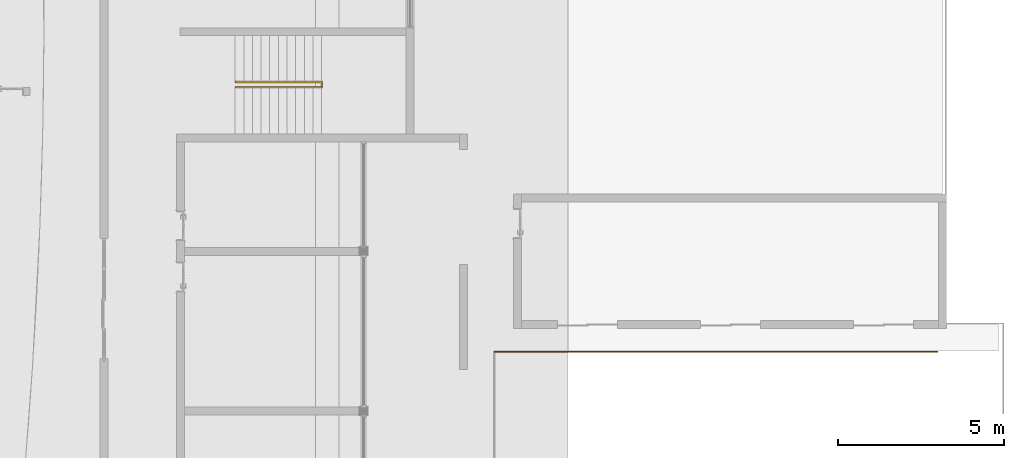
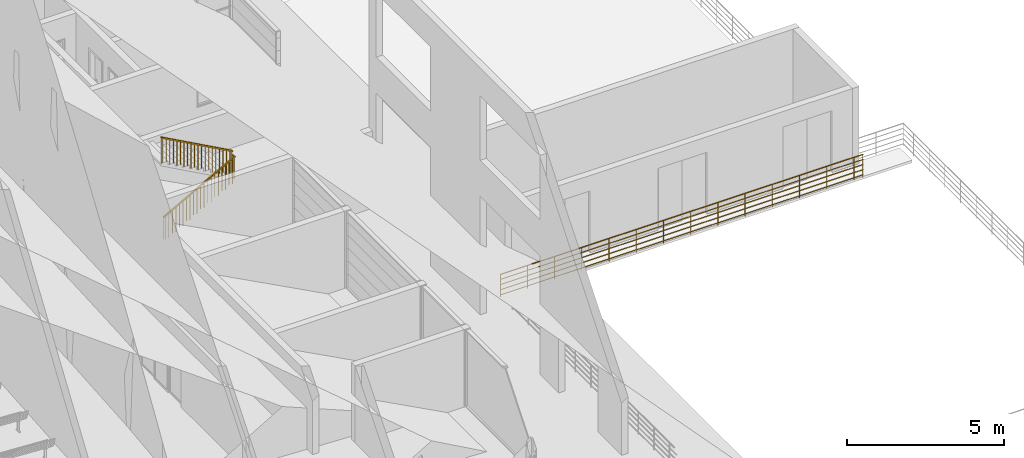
# One storey, part 73 of 82: 2 railings, 1 element without a shape of its own.
"""IFC2X3 building model written with IfcOpenShell, lengths in millimetres."""

from ifc_helpers import new_model, entity, si_unit, converted_unit, derived_unit, direction, frame, frame_2d, origin, origin_2d_with_axis, place, context, subcontext, project, spatial, polyline, rectangle, circle, outline, extrude, material, element, aggregate, save


model = new_model("IFC2X3")

# Units and contexts
model_context = context("Model", 3, precision=0.01, world=origin(), true_north=direction((6.12303176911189e-17, 1.0)))
body_context = subcontext(model_context, "Body", "Model", "MODEL_VIEW")
ifc_project = project(units=[si_unit("LENGTHUNIT", "METRE", prefix="MILLI"), si_unit("AREAUNIT", "SQUARE_METRE"), si_unit("VOLUMEUNIT", "CUBIC_METRE"), converted_unit("PLANEANGLEUNIT", "DEGREE", entity("IfcRatioMeasure", 0.0174532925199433), si_unit("PLANEANGLEUNIT", "RADIAN"), dimensions=[0, 0, 0, 0, 0, 0, 0]), si_unit("MASSUNIT", "GRAM", prefix="KILO"), derived_unit("MASSDENSITYUNIT", [(si_unit("MASSUNIT", "GRAM", prefix="KILO"), 1), (si_unit("LENGTHUNIT", "METRE"), -3)]), si_unit("TIMEUNIT", "SECOND"), si_unit("FREQUENCYUNIT", "HERTZ"), si_unit("THERMODYNAMICTEMPERATUREUNIT", "DEGREE_CELSIUS"), derived_unit("THERMALTRANSMITTANCEUNIT", [(si_unit("MASSUNIT", "GRAM", prefix="KILO"), 1), (si_unit("THERMODYNAMICTEMPERATUREUNIT", "KELVIN"), -1), (si_unit("TIMEUNIT", "SECOND"), -3)]), derived_unit("VOLUMETRICFLOWRATEUNIT", [(si_unit("LENGTHUNIT", "METRE"), 3), (si_unit("TIMEUNIT", "SECOND"), -1)]), si_unit("ELECTRICCURRENTUNIT", "AMPERE"), si_unit("ELECTRICVOLTAGEUNIT", "VOLT"), si_unit("POWERUNIT", "WATT"), si_unit("FORCEUNIT", "NEWTON", prefix="KILO"), si_unit("ILLUMINANCEUNIT", "LUX"), si_unit("LUMINOUSFLUXUNIT", "LUMEN"), si_unit("LUMINOUSINTENSITYUNIT", "CANDELA"), derived_unit("USERDEFINED", [(si_unit("MASSUNIT", "GRAM", prefix="KILO"), -1), (si_unit("LENGTHUNIT", "METRE"), -2), (si_unit("TIMEUNIT", "SECOND"), 3), (si_unit("LUMINOUSFLUXUNIT", "LUMEN"), 1)]), derived_unit("LINEARVELOCITYUNIT", [(si_unit("LENGTHUNIT", "METRE"), 1), (si_unit("TIMEUNIT", "SECOND"), -1)]), si_unit("PRESSUREUNIT", "PASCAL"), derived_unit("USERDEFINED", [(si_unit("LENGTHUNIT", "METRE"), -2), (si_unit("MASSUNIT", "GRAM", prefix="KILO"), 1), (si_unit("TIMEUNIT", "SECOND"), -2)])], contexts=[model_context])

# Site, building, storey
site_placement = place(None, origin())
site = spatial("IfcSite", under=ifc_project, at=site_placement, Name="表面", CompositionType="ELEMENT")
building_placement = place(site_placement, origin())
building = spatial("IfcBuilding", under=site, at=building_placement, CompositionType="ELEMENT")
storey_placement = place(building_placement, origin())
storey = spatial("IfcBuildingStorey", under=building, at=storey_placement, Name="1F", CompositionType="ELEMENT", Elevation=0.0)

# Stair, railing
stair_placement = place(storey_placement, origin())
stair = element("IfcStair", 1, at=stair_placement, inside=storey, ShapeType="NOTDEFINED")
ifc_material = material(Name="不锈钢")
railing_1_placement = place(stair_placement, origin())
railing_1 = element("IfcRailing", 2, at=railing_1_placement, material=ifc_material, Name="栏杆扶手:900mm", ObjectType="栏杆扶手:900mm", PredefinedType="NOTDEFINED", context=body_context, shape_type="SweptSolid", body=[
    extrude(outline(polyline([(-469.441869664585, -10.0), (474.936375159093, -10.0), (474.936375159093, 10.0), (-480.430880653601, 10.0), (-469.441869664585, -10.0)])), frame((-10424.8499126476, -7037.44591297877, 3474.93637516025), z_axis=(0.0, 1.0, 0.0), x_axis=(0.0, 0.0, -1.0)), (0.0, 0.0, 1.0), 19.9999999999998),
    extrude(outline(polyline([(-433.727583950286, -10.0), (439.222089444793, -10.0), (439.222089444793, 10.0), (-444.716594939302, 10.0), (-433.727583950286, -10.0)])), frame((-10294.8499126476, -7037.44591297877, 3439.22208944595), z_axis=(0.0, 1.0, 0.0), x_axis=(0.0, 0.0, -1.0)), (0.0, 0.0, 1.0), 19.9999999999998),
    extrude(outline(polyline([(-469.441869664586, -10.0), (474.936375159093, -10.0), (474.936375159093, 10.0), (-480.430880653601, 10.0), (-469.441869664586, -10.0)])), frame((-10164.8499126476, -7037.44591297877, 3332.07923230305), z_axis=(0.0, 1.0, 0.0), x_axis=(0.0, 0.0, -1.0)), (0.0, 0.0, 1.0), 19.9999999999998),
    extrude(outline(polyline([(-433.727583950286, -10.0), (439.222089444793, -10.0), (439.222089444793, 10.0), (-444.716594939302, 10.0), (-433.727583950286, -10.0)])), frame((-10034.8499126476, -7037.44591297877, 3296.36494658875), z_axis=(0.0, 1.0, 0.0), x_axis=(0.0, 0.0, -1.0)), (0.0, 0.0, 1.0), 19.9999999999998),
    extrude(outline(polyline([(-469.441869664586, -10.0), (474.936375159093, -10.0), (474.936375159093, 10.0), (-480.430880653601, 10.0), (-469.441869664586, -10.0)])), frame((-9904.84991264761, -7037.44591297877, 3189.22208944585), z_axis=(0.0, 1.0, 0.0), x_axis=(0.0, 0.0, -1.0)), (0.0, 0.0, 1.0), 19.9999999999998),
    extrude(outline(polyline([(-433.727583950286, -10.0), (439.222089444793, -10.0), (439.222089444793, 10.0), (-444.716594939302, 10.0), (-433.727583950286, -10.0)])), frame((-9774.84991264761, -7037.44591297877, 3153.50780373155), z_axis=(0.0, 1.0, 0.0), x_axis=(0.0, 0.0, -1.0)), (0.0, 0.0, 1.0), 19.9999999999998),
    extrude(outline(polyline([(-469.441869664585, -10.0), (474.936375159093, -10.0), (474.936375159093, 10.0), (-480.430880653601, 10.0), (-469.441869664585, -10.0)])), frame((-9644.84991264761, -7037.44591297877, 3046.36494658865), z_axis=(0.0, 1.0, 0.0), x_axis=(0.0, 0.0, -1.0)), (0.0, 0.0, 1.0), 19.9999999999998),
    extrude(outline(polyline([(-433.727583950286, -10.0), (439.222089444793, -10.0), (439.222089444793, 10.0), (-444.716594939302, 10.0), (-433.727583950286, -10.0)])), frame((-9514.84991264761, -7037.44591297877, 3010.65066087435), z_axis=(0.0, 1.0, 0.0), x_axis=(0.0, 0.0, -1.0)), (0.0, 0.0, 1.0), 19.9999999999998),
    extrude(outline(polyline([(-469.441869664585, -10.0), (474.936375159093, -10.0), (474.936375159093, 10.0), (-480.430880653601, 10.0), (-469.441869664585, -10.0)])), frame((-9384.84991264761, -7037.44591297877, 2903.50780373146), z_axis=(0.0, 1.0, 0.0), x_axis=(0.0, 0.0, -1.0)), (0.0, 0.0, 1.0), 19.9999999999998),
    extrude(outline(polyline([(-433.727583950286, -10.0), (439.222089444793, -10.0), (439.222089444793, 10.0), (-444.716594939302, 10.0), (-433.727583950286, -10.0)])), frame((-9254.84991264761, -7037.44591297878, 2867.79351801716), z_axis=(0.0, 1.0, 0.0), x_axis=(0.0, 0.0, -1.0)), (0.0, 0.0, 1.0), 19.9999999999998),
    extrude(outline(polyline([(-469.441869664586, -10.0), (474.936375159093, -10.0), (474.936375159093, 10.0), (-480.430880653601, 10.0), (-469.441869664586, -10.0)])), frame((-9124.84991264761, -7037.44591297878, 2760.65066087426), z_axis=(0.0, 1.0, 0.0), x_axis=(0.0, 0.0, -1.0)), (0.0, 0.0, 1.0), 19.9999999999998),
    extrude(outline(polyline([(-433.727583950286, -10.0), (439.222089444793, -10.0), (439.222089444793, 10.0), (-444.716594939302, 10.0), (-433.727583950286, -10.0)])), frame((-8994.84991264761, -7037.44591297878, 2724.93637515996), z_axis=(0.0, 1.0, 0.0), x_axis=(0.0, 0.0, -1.0)), (0.0, 0.0, 1.0), 19.9999999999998),
    extrude(outline(polyline([(-469.441869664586, -10.0), (474.936375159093, -10.0), (474.936375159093, 10.0), (-480.430880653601, 10.0), (-469.441869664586, -10.0)])), frame((-8864.84991264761, -7037.44591297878, 2617.79351801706), z_axis=(0.0, 1.0, 0.0), x_axis=(0.0, 0.0, -1.0)), (0.0, 0.0, 1.0), 19.9999999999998),
    extrude(outline(polyline([(-433.727583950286, -10.0), (439.222089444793, -10.0), (439.222089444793, 10.0), (-444.716594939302, 10.0), (-433.727583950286, -10.0)])), frame((-8734.84991264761, -7037.44591297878, 2582.07923230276), z_axis=(0.0, 1.0, 0.0), x_axis=(0.0, 0.0, -1.0)), (0.0, 0.0, 1.0), 19.9999999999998),
    extrude(outline(polyline([(-469.441869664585, -10.0), (474.936375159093, -10.0), (474.936375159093, 10.0), (-480.430880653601, 10.0), (-469.441869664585, -10.0)])), frame((-8604.84991264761, -7037.44591297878, 2474.93637515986), z_axis=(0.0, 1.0, 0.0), x_axis=(0.0, 0.0, -1.0)), (0.0, 0.0, 1.0), 19.9999999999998),
    extrude(outline(polyline([(-433.727583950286, -10.0), (439.222089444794, -10.0), (439.222089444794, 10.0), (-444.716594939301, 10.0), (-433.727583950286, -10.0)])), frame((-8474.84991264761, -7037.44591297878, 2439.22208944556), z_axis=(0.0, 1.0, 0.0), x_axis=(0.0, 0.0, -1.0)), (0.0, 0.0, 1.0), 19.9999999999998),
    extrude(outline(polyline([(-469.441869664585, -10.0), (474.936375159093, -10.0), (474.936375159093, 10.0), (-480.430880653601, 10.0), (-469.441869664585, -10.0)])), frame((-8344.84991264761, -7037.44591297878, 2332.07923230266), z_axis=(0.0, 1.0, 0.0), x_axis=(0.0, 0.0, -1.0)), (0.0, 0.0, 1.0), 19.9999999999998),
    extrude(outline(polyline([(-433.727583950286, -10.0), (439.222089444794, -10.0), (439.222089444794, 10.0), (-444.716594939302, 10.0), (-433.727583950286, -10.0)])), frame((-8214.84991264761, -7037.44591297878, 2296.36494658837), z_axis=(0.0, 1.0, 0.0), x_axis=(0.0, 0.0, -1.0)), (0.0, 0.0, 1.0), 19.9999999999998),
    extrude(outline(polyline([(-469.441869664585, -10.0), (474.936375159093, -10.0), (474.936375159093, 10.0), (-480.430880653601, 10.0), (-469.441869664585, -10.0)])), frame((-8084.84991264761, -7037.44591297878, 2189.22208944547), z_axis=(0.0, 1.0, 0.0), x_axis=(0.0, 0.0, -1.0)), (0.0, 0.0, 1.0), 19.9999999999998),
    extrude(outline(polyline([(-433.727583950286, -10.0), (439.222089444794, -10.0), (439.222089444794, 10.0), (-444.716594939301, 10.0), (-433.727583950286, -10.0)])), frame((-7954.84991264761, -7037.44591297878, 2153.50780373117), z_axis=(0.0, 1.0, 0.0), x_axis=(0.0, 0.0, -1.0)), (0.0, 0.0, 1.0), 19.9999999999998),
    extrude(rectangle(XDim=19.9999999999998, YDim=19.9999999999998, at=origin_2d_with_axis()), frame((-7889.84991264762, -7123.24591297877, 1571.42857142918)), (0.0, 0.0, 1.0), 850.0),
    extrude(outline(polyline([(-475.046265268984, -10.0), (469.551759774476, -10.0), (480.540770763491, 10.0), (-475.046265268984, 10.0), (-475.046265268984, -10.0)])), frame((-7955.24991264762, -7198.24591297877, 1903.61769384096), z_axis=(0.0, 1.0, 0.0), x_axis=(0.0, 0.0, 1.0)), (0.0, 0.0, 1.0), 19.9999999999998),
    extrude(outline(polyline([(-439.331979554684, -10.0), (433.837474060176, -10.0), (444.826485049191, 10.0), (-439.331979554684, 10.0), (-439.331979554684, -10.0)])), frame((-8085.24991264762, -7198.24591297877, 1867.90340812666), z_axis=(0.0, 1.0, 0.0), x_axis=(0.0, 0.0, 1.0)), (0.0, 0.0, 1.0), 19.9999999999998),
    extrude(outline(polyline([(-475.046265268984, -10.0), (469.551759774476, -10.0), (480.540770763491, 10.0), (-475.046265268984, 10.0), (-475.046265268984, -10.0)])), frame((-8215.24991264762, -7198.24591297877, 1760.76055098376), z_axis=(0.0, 1.0, 0.0), x_axis=(0.0, 0.0, 1.0)), (0.0, 0.0, 1.0), 19.9999999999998),
    extrude(outline(polyline([(-439.331979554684, -10.0), (433.837474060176, -10.0), (444.826485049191, 10.0), (-439.331979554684, 10.0), (-439.331979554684, -10.0)])), frame((-8345.24991264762, -7198.24591297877, 1725.04626526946), z_axis=(0.0, 1.0, 0.0), x_axis=(0.0, 0.0, 1.0)), (0.0, 0.0, 1.0), 19.9999999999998),
    extrude(outline(polyline([(-475.046265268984, -10.0), (469.551759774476, -10.0), (480.540770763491, 10.0), (-475.046265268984, 10.0), (-475.046265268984, -10.0)])), frame((-8475.24991264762, -7198.24591297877, 1617.90340812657), z_axis=(0.0, 1.0, 0.0), x_axis=(0.0, 0.0, 1.0)), (0.0, 0.0, 1.0), 19.9999999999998),
    extrude(outline(polyline([(-439.331979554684, -10.0), (433.837474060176, -10.0), (444.826485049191, 10.0), (-439.331979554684, 10.0), (-439.331979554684, -10.0)])), frame((-8605.24991264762, -7198.24591297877, 1582.18912241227), z_axis=(0.0, 1.0, 0.0), x_axis=(0.0, 0.0, 1.0)), (0.0, 0.0, 1.0), 19.9999999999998),
    extrude(outline(polyline([(-475.046265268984, -10.0), (469.551759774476, -10.0), (480.540770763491, 10.0), (-475.046265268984, 10.0), (-475.046265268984, -10.0)])), frame((-8735.24991264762, -7198.24591297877, 1475.04626526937), z_axis=(0.0, 1.0, 0.0), x_axis=(0.0, 0.0, 1.0)), (0.0, 0.0, 1.0), 19.9999999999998),
    extrude(outline(polyline([(-439.331979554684, -10.0), (433.837474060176, -10.0), (444.826485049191, 10.0), (-439.331979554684, 10.0), (-439.331979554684, -10.0)])), frame((-8865.24991264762, -7198.24591297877, 1439.33197955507), z_axis=(0.0, 1.0, 0.0), x_axis=(0.0, 0.0, 1.0)), (0.0, 0.0, 1.0), 19.9999999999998),
    extrude(outline(polyline([(-475.046265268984, -10.0), (469.551759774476, -10.0), (480.540770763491, 10.0), (-475.046265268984, 10.0), (-475.046265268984, -10.0)])), frame((-8995.24991264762, -7198.24591297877, 1332.18912241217), z_axis=(0.0, 1.0, 0.0), x_axis=(0.0, 0.0, 1.0)), (0.0, 0.0, 1.0), 19.9999999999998),
    extrude(outline(polyline([(-439.331979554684, -10.0), (433.837474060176, -10.0), (444.826485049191, 10.0), (-439.331979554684, 10.0), (-439.331979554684, -10.0)])), frame((-9125.24991264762, -7198.24591297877, 1296.47483669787), z_axis=(0.0, 1.0, 0.0), x_axis=(0.0, 0.0, 1.0)), (0.0, 0.0, 1.0), 19.9999999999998),
    extrude(outline(polyline([(-475.046265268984, -10.0), (469.551759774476, -10.0), (480.540770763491, 10.0), (-475.046265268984, 10.0), (-475.046265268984, -10.0)])), frame((-9255.24991264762, -7198.24591297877, 1189.33197955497), z_axis=(0.0, 1.0, 0.0), x_axis=(0.0, 0.0, 1.0)), (0.0, 0.0, 1.0), 19.9999999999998),
    extrude(outline(polyline([(-439.331979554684, -10.0), (433.837474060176, -10.0), (444.826485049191, 10.0), (-439.331979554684, 10.0), (-439.331979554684, -10.0)])), frame((-9385.24991264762, -7198.24591297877, 1153.61769384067), z_axis=(0.0, 1.0, 0.0), x_axis=(0.0, 0.0, 1.0)), (0.0, 0.0, 1.0), 19.9999999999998),
    extrude(outline(polyline([(-475.046265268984, -10.0), (469.551759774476, -10.0), (480.540770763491, 10.0), (-475.046265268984, 10.0), (-475.046265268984, -10.0)])), frame((-9515.24991264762, -7198.24591297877, 1046.47483669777), z_axis=(0.0, 1.0, 0.0), x_axis=(0.0, 0.0, 1.0)), (0.0, 0.0, 1.0), 19.9999999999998),
    extrude(outline(polyline([(-439.331979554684, -10.0), (433.837474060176, -10.0), (444.826485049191, 10.0), (-439.331979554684, 10.0), (-439.331979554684, -10.0)])), frame((-9645.24991264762, -7198.24591297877, 1010.76055098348), z_axis=(0.0, 1.0, 0.0), x_axis=(0.0, 0.0, 1.0)), (0.0, 0.0, 1.0), 19.9999999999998),
    extrude(outline(polyline([(-475.046265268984, -10.0), (469.551759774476, -10.0), (480.540770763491, 10.0), (-475.046265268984, 10.0), (-475.046265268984, -10.0)])), frame((-9775.24991264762, -7198.24591297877, 903.617693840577), z_axis=(0.0, 1.0, 0.0), x_axis=(0.0, 0.0, 1.0)), (0.0, 0.0, 1.0), 19.9999999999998),
    extrude(outline(polyline([(-439.331979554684, -10.0), (433.837474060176, -10.0), (444.826485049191, 10.0), (-439.331979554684, 10.0), (-439.331979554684, -10.0)])), frame((-9905.24991264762, -7198.24591297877, 867.903408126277), z_axis=(0.0, 1.0, 0.0), x_axis=(0.0, 0.0, 1.0)), (0.0, 0.0, 1.0), 19.9999999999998),
    extrude(outline(polyline([(-475.046265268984, -10.0), (469.551759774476, -10.0), (480.540770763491, 10.0), (-475.046265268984, 10.0), (-475.046265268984, -10.0)])), frame((-10035.2499126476, -7198.24591297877, 760.760550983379), z_axis=(0.0, 1.0, 0.0), x_axis=(0.0, 0.0, 1.0)), (0.0, 0.0, 1.0), 19.9999999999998),
    extrude(outline(polyline([(-439.331979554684, -10.0), (433.837474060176, -10.0), (444.826485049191, 10.0), (-439.331979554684, 10.0), (-439.331979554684, -10.0)])), frame((-10165.2499126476, -7198.24591297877, 725.046265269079), z_axis=(0.0, 1.0, 0.0), x_axis=(0.0, 0.0, 1.0)), (0.0, 0.0, 1.0), 19.9999999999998),
    extrude(outline(polyline([(-475.046265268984, -10.0), (469.551759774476, -10.0), (480.540770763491, 10.0), (-475.046265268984, 10.0), (-475.046265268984, -10.0)])), frame((-10295.2499126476, -7198.24591297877, 617.903408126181), z_axis=(0.0, 1.0, 0.0), x_axis=(0.0, 0.0, 1.0)), (0.0, 0.0, 1.0), 19.9999999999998),
    extrude(outline(polyline([(-439.331979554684, -10.0), (433.837474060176, -10.0), (444.826485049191, 10.0), (-439.331979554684, 10.0), (-439.331979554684, -10.0)])), frame((-10425.2499126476, -7198.24591297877, 582.189122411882), z_axis=(0.0, 1.0, 0.0), x_axis=(0.0, 0.0, 1.0)), (0.0, 0.0, 1.0), 19.9999999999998),
    extrude(outline(polyline([(-487.299012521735, -10.0), (492.793518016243, -10.0), (492.793518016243, 10.0), (-498.28802351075, 10.0), (-487.299012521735, -10.0)])), frame((-7889.84991264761, -7037.44591297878, 2064.22208944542), z_axis=(0.0, 1.0, 0.0), x_axis=(0.0, 0.0, -1.0)), (0.0, 0.0, 1.0), 19.9999999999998),
    extrude(rectangle(XDim=19.9999999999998, YDim=19.9999999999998, at=origin_2d_with_axis()), frame((-7889.84991264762, -7188.24591297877, 1571.42857142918), z_axis=(0.0, 0.0, 1.0), x_axis=(0.0, -1.0, 0.0)), (0.0, 0.0, 1.0), 850.0),
    extrude(outline(polyline([(-421.474836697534, -10.0), (415.980331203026, -10.0), (426.969342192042, 10.0), (-421.474836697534, 10.0), (-421.474836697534, -10.0)])), frame((-7890.24991264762, -7198.24591297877, 1992.90340812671), z_axis=(0.0, 1.0, 0.0), x_axis=(0.0, 0.0, 1.0)), (0.0, 0.0, 1.0), 19.9999999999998),
    extrude(outline(polyline([(-484.661649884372, -10.0), (490.156155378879, -10.0), (490.156155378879, 10.0), (-495.650660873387, 10.0), (-484.661649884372, -10.0)])), frame((-10480.2499126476, -7037.44591297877, 3490.15615538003), z_axis=(0.0, 1.0, 0.0), x_axis=(0.0, 0.0, -1.0)), (0.0, 0.0, 1.0), 19.9999999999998),
    extrude(outline(polyline([(-424.222089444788, -10.0), (418.72758395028, -10.0), (429.716594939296, 10.0), (-424.222089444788, 10.0), (-424.222089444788, -10.0)])), frame((-10480.2499126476, -7198.24591297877, 567.079232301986), z_axis=(0.0, 1.0, 0.0), x_axis=(0.0, 0.0, 1.0)), (0.0, 0.0, 1.0), 19.9999999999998),
    extrude(outline(polyline([(-1484.0630109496, -25.0), (1511.53553842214, -25.0), (1484.0630109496, 25.0), (-1511.53553842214, 25.0), (-1484.0630109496, -25.0)])), frame((-9177.54991264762, -7213.24591297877, 1735.59571581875), z_axis=(0.0, 1.0, 0.0), x_axis=(0.876419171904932, 0.0, 0.481548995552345)), (0.0, 0.0, 1.0), 49.9999999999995),
    extrude(rectangle(XDim=110.799999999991, YDim=49.9999999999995, at=frame_2d((-5.43565192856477e-13, 0.0), x_axis=(1.0, 0.0))), frame((-7889.84991264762, -7107.84591297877, 2421.42857142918), z_axis=(0.0, 0.0, 1.0), x_axis=(0.0, 1.0, 0.0)), (0.0, 0.0, 1.0), 50.0),
    extrude(outline(polyline([(-1511.53553842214, -25.0), (1484.0630109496, -25.0), (1511.53553842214, 25.0), (-1484.0630109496, 25.0), (-1511.53553842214, -25.0)])), frame((-9177.54991264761, -7052.44591297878, 3293.06824329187), z_axis=(0.0, 1.0, 0.0), x_axis=(-0.876419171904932, 0.0, 0.481548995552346)), (0.0, 0.0, 1.0), 49.9999999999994),
])
aggregate(stair, [railing_1])

# Railing
railing_2_placement = place(storey_placement, origin())
element("IfcRailing", 3, at=railing_2_placement, inside=storey, material=ifc_material, Name="栏杆扶手:900mm 圆管", ObjectType="栏杆扶手:900mm 圆管", PredefinedType="NOTDEFINED", context=body_context, shape_type="SweptSolid", body=[
    extrude(circle(Radius=12.5, at=origin_2d_with_axis()), frame((10295.1500873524, -15132.8459129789, 0.0), z_axis=(0.0, 0.0, 1.0), x_axis=(0.0, 1.0, 0.0)), (0.0, 0.0, 1.0), 860.0),
    extrude(circle(Radius=12.5, at=origin_2d_with_axis()), frame((9295.15008735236, -15132.8459129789, 0.0), z_axis=(0.0, 0.0, 1.0), x_axis=(0.0, 1.0, 0.0)), (0.0, 0.0, 1.0), 860.0),
    extrude(circle(Radius=12.5, at=origin_2d_with_axis()), frame((8295.15008735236, -15132.8459129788, 0.0), z_axis=(0.0, 0.0, 1.0), x_axis=(0.0, 1.0, 0.0)), (0.0, 0.0, 1.0), 860.0),
    extrude(circle(Radius=12.5, at=origin_2d_with_axis()), frame((7295.15008735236, -15132.8459129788, 0.0), z_axis=(0.0, 0.0, 1.0), x_axis=(0.0, 1.0, 0.0)), (0.0, 0.0, 1.0), 860.0),
    extrude(circle(Radius=12.5, at=origin_2d_with_axis()), frame((6295.15008735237, -15132.8459129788, 0.0), z_axis=(0.0, 0.0, 1.0), x_axis=(0.0, 1.0, 0.0)), (0.0, 0.0, 1.0), 860.0),
    extrude(circle(Radius=12.5, at=origin_2d_with_axis()), frame((5295.15008735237, -15132.8459129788, 0.0), z_axis=(0.0, 0.0, 1.0), x_axis=(0.0, 1.0, 0.0)), (0.0, 0.0, 1.0), 860.0),
    extrude(circle(Radius=12.5, at=origin_2d_with_axis()), frame((4295.15008735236, -15132.8459129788, 0.0), z_axis=(0.0, 0.0, 1.0), x_axis=(0.0, 1.0, 0.0)), (0.0, 0.0, 1.0), 860.0),
    extrude(circle(Radius=12.5, at=origin_2d_with_axis()), frame((3295.15008735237, -15132.8459129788, 0.0), z_axis=(0.0, 0.0, 1.0), x_axis=(0.0, 1.0, 0.0)), (0.0, 0.0, 1.0), 860.0),
    extrude(circle(Radius=12.5, at=origin_2d_with_axis()), frame((2295.15008735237, -15132.8459129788, 0.0), z_axis=(0.0, 0.0, 1.0), x_axis=(0.0, 1.0, 0.0)), (0.0, 0.0, 1.0), 860.0),
    extrude(circle(Radius=12.5, at=origin_2d_with_axis()), frame((1295.15008735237, -15132.8459129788, 0.0), z_axis=(0.0, 0.0, 1.0), x_axis=(0.0, 1.0, 0.0)), (0.0, 0.0, 1.0), 860.0),
    extrude(circle(Radius=12.5, at=frame_2d((2.26140385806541e-28, -6.76791955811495e-14), x_axis=(1.0, 0.0))), frame((295.150087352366, -15132.8459129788, 0.0), z_axis=(0.0, 0.0, 1.0), x_axis=(0.0, 1.0, 0.0)), (0.0, 0.0, 1.0), 860.0),
    extrude(circle(Radius=12.5, at=origin_2d_with_axis()), frame((-704.849912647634, -15132.8459129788, 0.0), z_axis=(0.0, 0.0, 1.0), x_axis=(0.0, 1.0, 0.0)), (0.0, 0.0, 1.0), 860.0),
    extrude(circle(Radius=12.5, at=origin_2d_with_axis()), frame((-1704.84991264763, -15132.8459129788, 0.0), z_axis=(0.0, 0.0, 1.0), x_axis=(0.0, 1.0, 0.0)), (0.0, 0.0, 1.0), 860.0),
    extrude(circle(Radius=12.5, at=origin_2d_with_axis()), frame((10617.6500873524, -15132.8459129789, 0.0), z_axis=(0.0, 0.0, 1.0), x_axis=(0.0, 1.0, 0.0)), (0.0, 0.0, 1.0), 860.0),
    extrude(circle(Radius=12.5, at=origin_2d_with_axis()), frame((-2692.34991264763, -15132.8459129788, 0.0), z_axis=(0.0, 0.0, 1.0), x_axis=(0.0, 1.0, 0.0)), (0.0, 0.0, 1.0), 860.0),
    extrude(circle(Radius=20.0, at=frame_2d((0.0, -1.35358391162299e-13), x_axis=(1.0, 0.0))), frame((-2704.84991264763, -15132.8459129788, 880.0), z_axis=(1.0, 0.0, 0.0), x_axis=(0.0, -1.0, 0.0)), (0.0, 0.0, 1.0), 13335.0),
    extrude(circle(Radius=15.0, at=origin_2d_with_axis()), frame((-2704.84991264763, -15132.8459129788, 685.0), z_axis=(1.0, 0.0, 0.0), x_axis=(0.0, -1.0, 0.0)), (0.0, 0.0, 1.0), 13335.0),
    extrude(circle(Radius=15.0, at=origin_2d_with_axis()), frame((-2704.84991264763, -15132.8459129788, 485.0), z_axis=(1.0, 0.0, 0.0), x_axis=(0.0, -1.0, 0.0)), (0.0, 0.0, 1.0), 13335.0),
    extrude(circle(Radius=15.0, at=frame_2d((0.0, -3.38395977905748e-14), x_axis=(1.0, 0.0))), frame((-2704.84991264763, -15132.8459129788, 285.0), z_axis=(1.0, 0.0, 0.0), x_axis=(0.0, -1.0, 0.0)), (0.0, 0.0, 1.0), 13335.0),
    extrude(circle(Radius=15.0, at=frame_2d((0.0, -3.38395977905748e-14), x_axis=(1.0, 0.0))), frame((-2704.84991264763, -15132.8459129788, 85.0), z_axis=(1.0, 0.0, 0.0), x_axis=(0.0, -1.0, 0.0)), (0.0, 0.0, 1.0), 13335.0),
])

save(model, "model.ifc")
